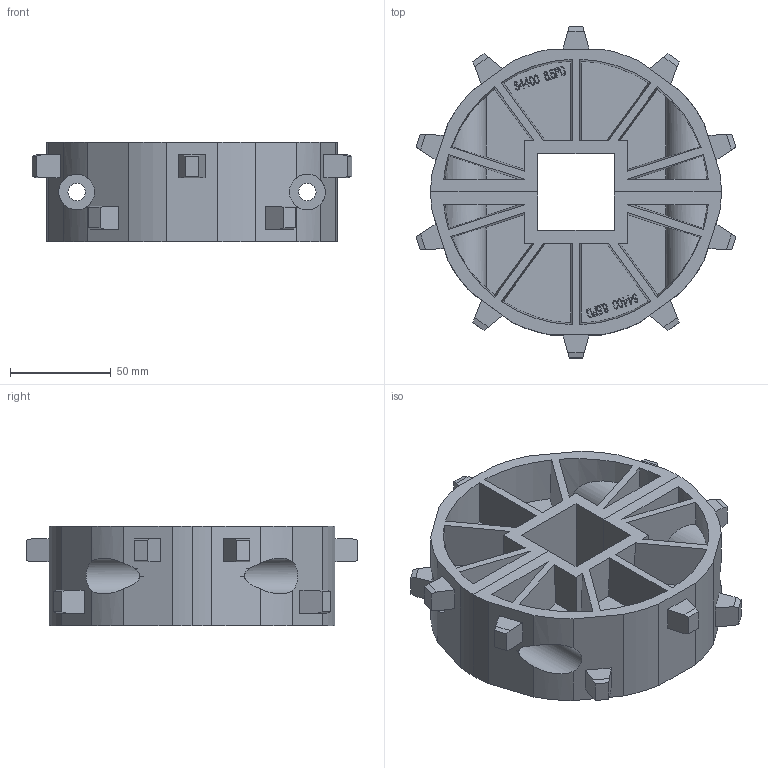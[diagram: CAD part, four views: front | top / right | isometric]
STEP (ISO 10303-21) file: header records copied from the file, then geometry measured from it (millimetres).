
FILE_DESCRIPTION((''),'2;1');
FILE_NAME('S4400_SPLIT_65X15_40_SQ_ASM','2015-04-21T',('cmaheu'),('INTRALOX'),'PRO/ENGINEER BY PARAMETRIC TECHNOLOGY CORPORATION, 2009460','PRO/ENGINEER BY PARAMETRIC TECHNOLOGY CORPORATION, 2009460','');
FILE_SCHEMA(('CONFIG_CONTROL_DESIGN'));
Length unit declared in the file: inch
Products named in the file (3): S4400_SPLIT_65X15_40_SQ_N_AF0; S4400_SPLIT_65X15_40_SQ_B_AF0; S4400_SPLIT_65X15_40_SQ_ASM
Assembly tree (2 placements, depth 2):
  S4400_SPLIT_65X15_40_SQ_ASM
    S4400_SPLIT_65X15_40_SQ_N_AF0
    S4400_SPLIT_65X15_40_SQ_B_AF0
Bounding box: 158.56 x 164.5 x 49.53 mm (x, y, z)
Volume: 360273.4 mm3; surface area: 137601.1 mm2
Topology: 2 solids, 2 shells, 1538 faces, 4252 edges, 2832 vertices
Faces by surface type: plane 1212, cylinder 264, cone 62
Entity records: 49418 total; most frequent: CARTESIAN_POINT 9591, ORIENTED_EDGE 8504, DIRECTION 7834, EDGE_CURVE 4252, VECTOR 3508, LINE 3508, VERTEX_POINT 2832, AXIS2_PLACEMENT_3D 2163
